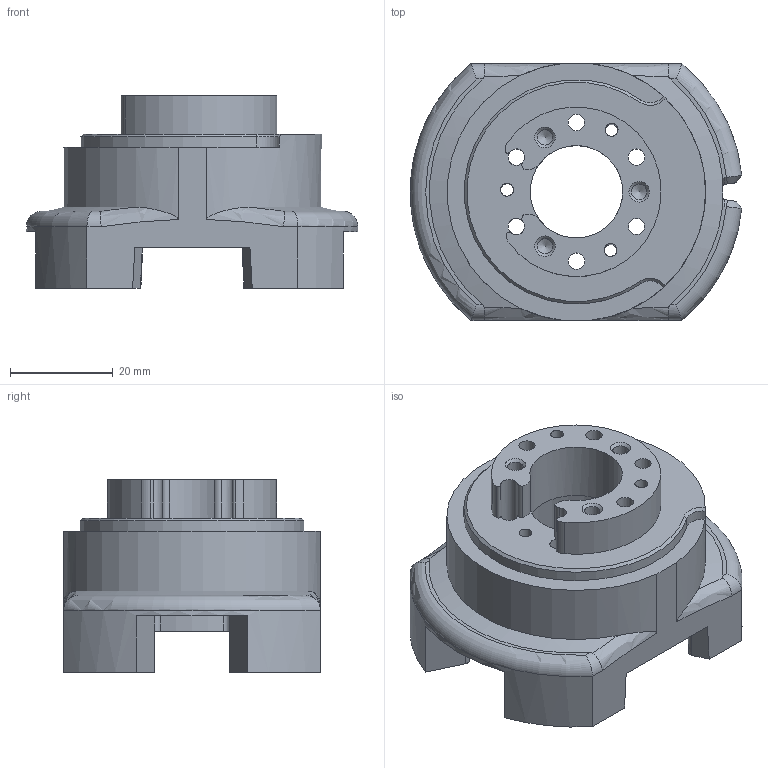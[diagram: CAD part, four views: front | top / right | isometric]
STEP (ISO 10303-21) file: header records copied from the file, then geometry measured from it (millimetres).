
FILE_DESCRIPTION(/* description */ ('STEP AP242 Edition 2','CAx-IF Rec.Pracs.---Representation and Presentation of Product Manufacturing Information (PMI)---4.0---2014-10-13','CAx-IF Rec.Pracs.---3D Tessellated Geometry---0.4---2014-09-14','2;1','CAx-IF Rec.Pracs.---User Defined Attributes---1.5---2016-08-15'),/* implementation_level */ '2;1');
FILE_NAME(/* name */ 'Assy_ForMFG - KD-C-501X_Top_Wrist_Rotor (1)',/* time_stamp */ '2026-05-15T19:56:31Z',/* author */ (''),/* organization */ (''),/* preprocessor_version */ 'ST-DEVELOPER v20',/* originating_system */ 'ONSHAPE BY PTC INC, 1.215',/* authorisation */ ' ');
FILE_SCHEMA (('AP242_MANAGED_MODEL_BASED_3D_ENGINEERING_MIM_LF { 1 0 10303 442 3 1 4 }'));
Length unit declared in the file: metre
Products named in the file (1): KD-C-501X_Top_Wrist_Rotor
Bounding box: 64.54 x 50 x 37.5 mm (x, y, z)
Volume: 37410.6 mm3; surface area: 14686.1 mm2
Topology: 1 solids, 1 shells, 110 faces, 314 edges, 205 vertices
Faces by surface type: cylinder 53, plane 33, cone 11, bspline 10, torus 3
Full cylindrical faces by diameter (mm): 2.5 x3, 3 x3, 3.2 x6, 18 x1, 35.5 x1
Entity records: 3645 total; most frequent: CARTESIAN_POINT 878, DIRECTION 567, ORIENTED_EDGE 562, EDGE_CURVE 281, AXIS2_PLACEMENT_3D 228, VERTEX_POINT 195, FACE_BOUND 152, EDGE_LOOP 149
